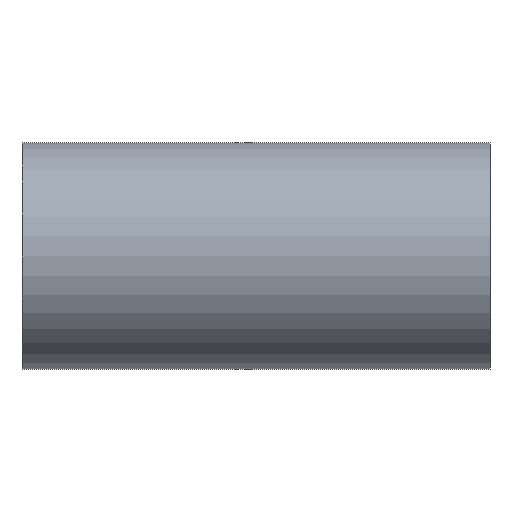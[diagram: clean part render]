
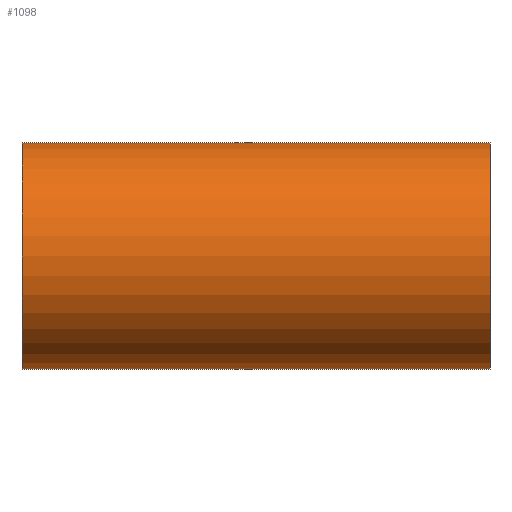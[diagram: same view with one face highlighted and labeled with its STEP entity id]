
A CAD part, front view. The second image highlights one B-rep face of the part: STEP entity #1098.
In plain terms, the highlighted cylindrical face has radius 50.8 mm (diameter 101.6 mm), a partial arc.
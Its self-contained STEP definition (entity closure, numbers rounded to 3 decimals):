
#31 = CARTESIAN_POINT ( 'NONE',  ( -104.8, 0., -50.8 ) ) ;
#66 = DIRECTION ( 'NONE',  ( 0., 0., -1. ) ) ;
#76 = EDGE_LOOP ( 'NONE', ( #87, #1277, #1325, #923 ) ) ;
#79 = DIRECTION ( 'NONE',  ( 1., 0., 0. ) ) ;
#87 = ORIENTED_EDGE ( 'NONE', *, *, #602, .F. ) ;
#89 = CARTESIAN_POINT ( 'NONE',  ( -104.8, 0., 0. ) ) ;
#135 = CYLINDRICAL_SURFACE ( 'NONE', #831, 50.8 ) ;
#271 = CARTESIAN_POINT ( 'NONE',  ( 104.8, 0., 50.8 ) ) ;
#309 = VECTOR ( 'NONE', #888, 1000. ) ;
#358 = DIRECTION ( 'NONE',  ( 0., 0., -1. ) ) ;
#364 = DIRECTION ( 'NONE',  ( -1., 0., 0. ) ) ;
#493 = VERTEX_POINT ( 'NONE', #1521 ) ;
#522 = CARTESIAN_POINT ( 'NONE',  ( 104.8, 0., 0. ) ) ;
#592 = VECTOR ( 'NONE', #650, 1000. ) ;
#602 = EDGE_CURVE ( 'NONE', #493, #904, #1886, .T. ) ;
#650 = DIRECTION ( 'NONE',  ( 1., 0., 0. ) ) ;
#720 = EDGE_CURVE ( 'NONE', #1081, #904, #1977, .T. ) ;
#738 = CARTESIAN_POINT ( 'NONE',  ( -104.8, 0., 50.8 ) ) ;
#799 = CARTESIAN_POINT ( 'NONE',  ( -104.8, 0., -50.8 ) ) ;
#822 = EDGE_CURVE ( 'NONE', #1942, #1081, #1373, .T. ) ;
#831 = AXIS2_PLACEMENT_3D ( 'NONE', #1168, #972, #1228 ) ;
#888 = DIRECTION ( 'NONE',  ( 1., 0., 0. ) ) ;
#904 = VERTEX_POINT ( 'NONE', #271 ) ;
#923 = ORIENTED_EDGE ( 'NONE', *, *, #720, .T. ) ;
#972 = DIRECTION ( 'NONE',  ( 1., 0., 0. ) ) ;
#997 = CIRCLE ( 'NONE', #1210, 50.8 ) ;
#1081 = VERTEX_POINT ( 'NONE', #1211 ) ;
#1098 = ADVANCED_FACE ( 'NONE', ( #1754 ), #135, .T. ) ;
#1168 = CARTESIAN_POINT ( 'NONE',  ( -104.8, 0., 0. ) ) ;
#1210 = AXIS2_PLACEMENT_3D ( 'NONE', #89, #79, #66 ) ;
#1211 = CARTESIAN_POINT ( 'NONE',  ( 104.8, 0., -50.8 ) ) ;
#1228 = DIRECTION ( 'NONE',  ( 0., 0., -1. ) ) ;
#1277 = ORIENTED_EDGE ( 'NONE', *, *, #1693, .T. ) ;
#1325 = ORIENTED_EDGE ( 'NONE', *, *, #822, .T. ) ;
#1373 = LINE ( 'NONE', #31, #592 ) ;
#1521 = CARTESIAN_POINT ( 'NONE',  ( -104.8, 0., 50.8 ) ) ;
#1658 = AXIS2_PLACEMENT_3D ( 'NONE', #522, #364, #358 ) ;
#1693 = EDGE_CURVE ( 'NONE', #493, #1942, #997, .T. ) ;
#1754 = FACE_OUTER_BOUND ( 'NONE', #76, .T. ) ;
#1886 = LINE ( 'NONE', #738, #309 ) ;
#1942 = VERTEX_POINT ( 'NONE', #799 ) ;
#1977 = CIRCLE ( 'NONE', #1658, 50.8 ) ;
